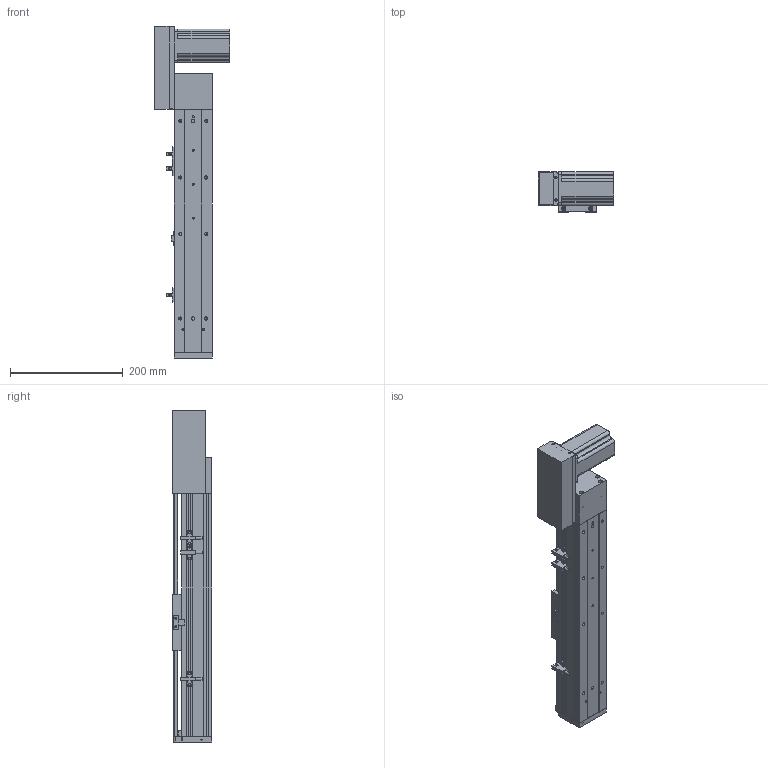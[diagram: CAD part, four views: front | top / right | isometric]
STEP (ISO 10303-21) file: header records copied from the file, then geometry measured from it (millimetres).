
FILE_DESCRIPTION (( 'STEP AP203' ), '1' );
FILE_NAME ('ML68-S250-CR.STEP', '2016-08-04T12:38:55', ( '' ), ( '' ), 'SwSTEP 2.0', 'SolidWorks 2014', '' );
FILE_SCHEMA (( 'CONFIG_CONTROL_DESIGN' ));
Length unit declared in the file: millimetre
Products named in the file (12): ML68-S250-CR; 60換覜結え; QS68左右折电机板罩子; ML68雄赽釱; QS68酘衵殏萇儂啣; ML68滅鳥啣盓傅輸; 三协电机MH201N2_預設; 葩璃 ML68菁釱^ML68-S250-CR; ML68奻裔^ML68-S250-CR; 換覜ん; ML68傷啣; ML68-BL傷啣
Assembly tree (13 placements, depth 2):
  ML68-S250-CR
    葩璃 ML68菁釱^ML68-S250-CR
    ML68奻裔^ML68-S250-CR
    ML68傷啣
    ML68-BL傷啣
    60換覜結え
    換覜ん  x3
    三协电机MH201N2_預設
    ML68雄赽釱
    QS68酘衵殏萇儂啣
    QS68左右折电机板罩子
    ML68滅鳥啣盓傅輸
Bounding box: 133.5 x 70.5 x 588.5 mm (x, y, z)
Volume: 1262412.7 mm3; surface area: 426403.2 mm2
Topology: 13 solids, 13 shells, 851 faces, 2326 edges, 1473 vertices
Faces by surface type: cylinder 382, plane 373, cone 96
Entity records: 26666 total; most frequent: CARTESIAN_POINT 4902, DIRECTION 4396, ORIENTED_EDGE 4152, EDGE_CURVE 2076, AXIS2_PLACEMENT_3D 1579, VERTEX_POINT 1361, LINE 1238, VECTOR 1238
